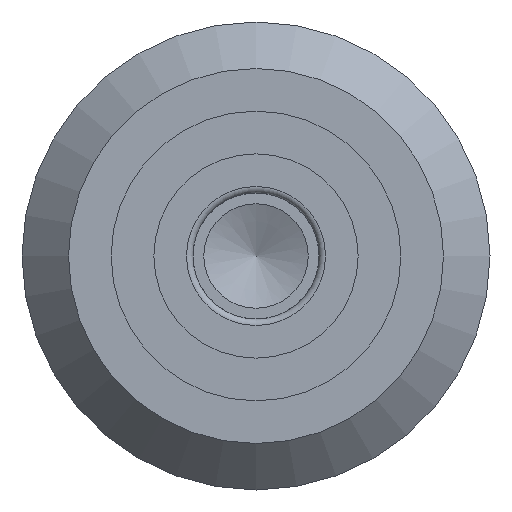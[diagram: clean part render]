
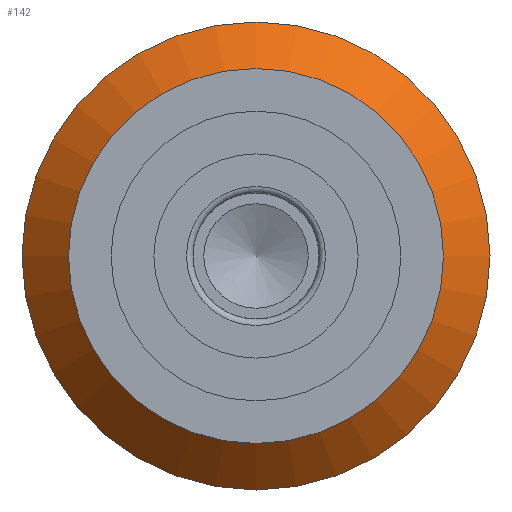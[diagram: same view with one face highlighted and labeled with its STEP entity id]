
A CAD part, left-side view. The second image highlights one B-rep face of the part: STEP entity #142.
In plain terms, the highlighted conical face has half-angle 45 degrees and reference radius 7.417 mm.
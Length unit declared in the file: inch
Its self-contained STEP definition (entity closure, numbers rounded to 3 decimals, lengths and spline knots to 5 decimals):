
#142 = ADVANCED_FACE( '', ( #317, #318 ), #319, .T. );
#317 = FACE_BOUND( '', #568, .T. );
#318 = FACE_OUTER_BOUND( '', #569, .T. );
#319 = CONICAL_SURFACE( '', #570, 0.292, 0.785 );
#568 = EDGE_LOOP( '', ( #824 ) );
#569 = EDGE_LOOP( '', ( #825 ) );
#570 = AXIS2_PLACEMENT_3D( '', #826, #827, #828 );
#824 = ORIENTED_EDGE( '', *, *, #1235, .T. );
#825 = ORIENTED_EDGE( '', *, *, #1236, .F. );
#826 = CARTESIAN_POINT( '', ( -0.067, 0., 0. ) );
#827 = DIRECTION( '', ( 1., 0., 0. ) );
#828 = DIRECTION( '', ( 0., 0., -1. ) );
#1235 = EDGE_CURVE( '', #1399, #1399, #1400, .T. );
#1236 = EDGE_CURVE( '', #1401, #1401, #1402, .T. );
#1399 = VERTEX_POINT( '', #1639 );
#1400 = CIRCLE( '', #1640, 0.234 );
#1401 = VERTEX_POINT( '', #1641 );
#1402 = CIRCLE( '', #1642, 0.292 );
#1639 = CARTESIAN_POINT( '', ( -0.125, 0., -0.234 ) );
#1640 = AXIS2_PLACEMENT_3D( '', #1952, #1953, #1954 );
#1641 = CARTESIAN_POINT( '', ( -0.067, 0., -0.292 ) );
#1642 = AXIS2_PLACEMENT_3D( '', #1955, #1956, #1957 );
#1952 = CARTESIAN_POINT( '', ( -0.125, 0., 0. ) );
#1953 = DIRECTION( '', ( 1., 0., 0. ) );
#1954 = DIRECTION( '', ( 0., 0., -1. ) );
#1955 = CARTESIAN_POINT( '', ( -0.067, 0., 0. ) );
#1956 = DIRECTION( '', ( 1., 0., 0. ) );
#1957 = DIRECTION( '', ( 0., 0., -1. ) );
